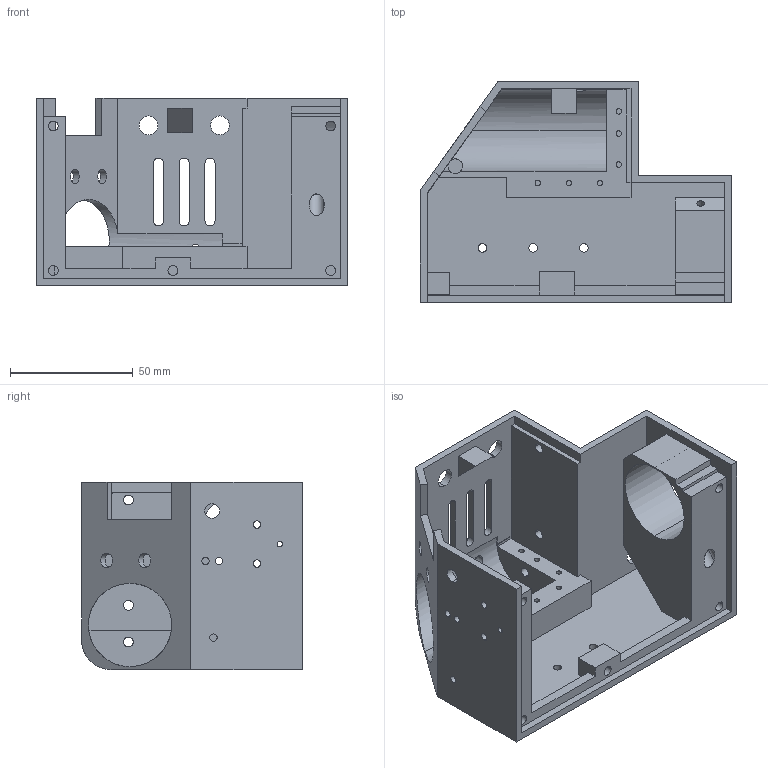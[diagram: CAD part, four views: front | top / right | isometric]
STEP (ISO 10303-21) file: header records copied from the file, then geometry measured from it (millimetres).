
FILE_DESCRIPTION(('Creo Elements/Direct Modeling STEP Export'),'2;1');
FILE_NAME('C:/temp/box.step','2017-12-02T11:48:51',(''),(''),'Creo Elements/Direct Modeling STEP processor for AP214 (Solid Model)','Creo Elements/Direct Modeling 18.1C 24-Feb-2013 (C) Parametric Technology GmbH','');
FILE_SCHEMA(('AUTOMOTIVE_DESIGN { 1 0 10303 214 1 1 1 1 }'));
Length unit declared in the file: millimetre
Products named in the file (1): Box
Bounding box: 127 x 89.9 x 76.2 mm (x, y, z)
Volume: 135132.2 mm3; surface area: 67222.3 mm2
Topology: 1 solids, 1 shells, 159 faces, 443 edges, 296 vertices
Faces by surface type: cylinder 86, plane 73
Entity records: 6910 total; most frequent: CARTESIAN_POINT 2852, ORIENTED_EDGE 886, DIRECTION 755, EDGE_CURVE 443, VERTEX_POINT 296, VECTOR 253, LINE 253, AXIS2_PLACEMENT_3D 251
